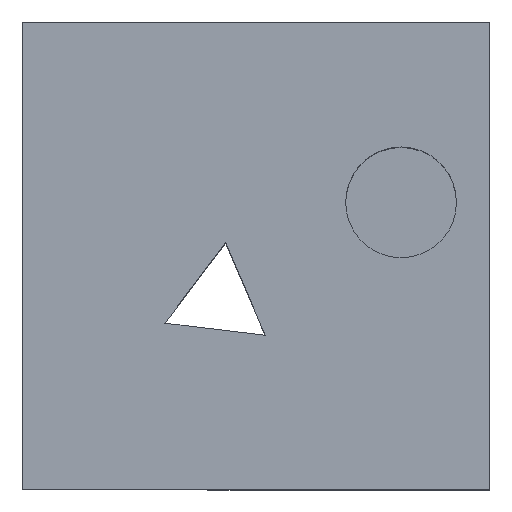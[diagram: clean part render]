
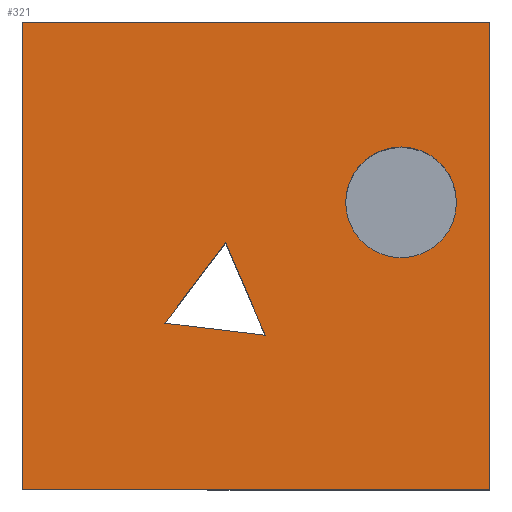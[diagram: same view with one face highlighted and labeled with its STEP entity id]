
A CAD part, top view. The second image highlights one B-rep face of the part: STEP entity #321.
In plain terms, the highlighted planar face has unit normal (0, 0, 1).
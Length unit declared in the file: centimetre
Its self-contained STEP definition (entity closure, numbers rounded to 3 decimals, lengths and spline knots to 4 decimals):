
#2 = EDGE_CURVE ( 'NONE', #534, #135, #410, .T. ) ;
#12 = LINE ( 'NONE', #310, #387 ) ;
#13 = DIRECTION ( 'NONE',  ( 1., 0., 0. ) ) ;
#20 = ORIENTED_EDGE ( 'NONE', *, *, #216, .F. ) ;
#31 = FACE_BOUND ( 'NONE', #379, .T. ) ;
#33 = DIRECTION ( 'NONE',  ( 0., -1., 0. ) ) ;
#34 = EDGE_CURVE ( 'NONE', #193, #433, #138, .T. ) ;
#44 = EDGE_CURVE ( 'NONE', #340, #193, #46, .T. ) ;
#46 = LINE ( 'NONE', #81, #420 ) ;
#53 = ORIENTED_EDGE ( 'NONE', *, *, #2, .F. ) ;
#65 = VERTEX_POINT ( 'NONE', #94 ) ;
#68 = CARTESIAN_POINT ( 'NONE',  ( 810.532, 613.9499, 1000. ) ) ;
#73 = LINE ( 'NONE', #253, #101 ) ;
#80 = EDGE_LOOP ( 'NONE', ( #439, #202, #440, #552 ) ) ;
#81 = CARTESIAN_POINT ( 'NONE',  ( 0., 0., 1000. ) ) ;
#94 = CARTESIAN_POINT ( 'NONE',  ( 691.9903, 613.9499, 1000. ) ) ;
#101 = VECTOR ( 'NONE', #33, 100. ) ;
#104 = CARTESIAN_POINT ( 'NONE',  ( 810.532, 613.9499, 1000. ) ) ;
#121 = DIRECTION ( 'NONE',  ( 1., 0., 0. ) ) ;
#126 = DIRECTION ( 'NONE',  ( 1., 0., 0. ) ) ;
#129 = AXIS2_PLACEMENT_3D ( 'NONE', #104, #288, #13 ) ;
#135 = VERTEX_POINT ( 'NONE', #137 ) ;
#137 = CARTESIAN_POINT ( 'NONE',  ( 434.9745, 528.4443, 1000. ) ) ;
#138 = LINE ( 'NONE', #308, #249 ) ;
#142 = VERTEX_POINT ( 'NONE', #427 ) ;
#157 = VECTOR ( 'NONE', #217, 100. ) ;
#175 = CARTESIAN_POINT ( 'NONE',  ( 1000., 1000., 1000. ) ) ;
#179 = DIRECTION ( 'NONE',  ( -0.6, -0.8, 0. ) ) ;
#193 = VERTEX_POINT ( 'NONE', #365 ) ;
#202 = ORIENTED_EDGE ( 'NONE', *, *, #44, .T. ) ;
#204 = CARTESIAN_POINT ( 'NONE',  ( 0., 0., 1000. ) ) ;
#213 = AXIS2_PLACEMENT_3D ( 'NONE', #68, #519, #121 ) ;
#216 = EDGE_CURVE ( 'NONE', #65, #580, #256, .T. ) ;
#217 = DIRECTION ( 'NONE',  ( -1., 0., 0. ) ) ;
#248 = CARTESIAN_POINT ( 'NONE',  ( 0., 1000., 1000. ) ) ;
#249 = VECTOR ( 'NONE', #376, 100. ) ;
#253 = CARTESIAN_POINT ( 'NONE',  ( 0., 1000., 1000. ) ) ;
#256 = CIRCLE ( 'NONE', #129, 118.5417 ) ;
#261 = VERTEX_POINT ( 'NONE', #248 ) ;
#288 = DIRECTION ( 'NONE',  ( 0., 0., 1. ) ) ;
#292 = DIRECTION ( 'NONE',  ( 0., 0., 1. ) ) ;
#295 = EDGE_CURVE ( 'NONE', #142, #534, #438, .T. ) ;
#296 = VECTOR ( 'NONE', #349, 100. ) ;
#299 = CARTESIAN_POINT ( 'NONE',  ( 305.0941, 355.3708, 1000. ) ) ;
#308 = CARTESIAN_POINT ( 'NONE',  ( 1000., 1000., 1000. ) ) ;
#309 = CIRCLE ( 'NONE', #213, 118.5417 ) ;
#310 = CARTESIAN_POINT ( 'NONE',  ( 434.9745, 528.4443, 1000. ) ) ;
#313 = EDGE_CURVE ( 'NONE', #580, #65, #309, .T. ) ;
#316 = CARTESIAN_POINT ( 'NONE',  ( 519.9204, 329.4278, 1000. ) ) ;
#321 = ADVANCED_FACE ( 'NONE', ( #442, #31, #531 ), #396, .T. ) ;
#334 = ORIENTED_EDGE ( 'NONE', *, *, #295, .F. ) ;
#339 = EDGE_CURVE ( 'NONE', #261, #340, #73, .T. ) ;
#340 = VERTEX_POINT ( 'NONE', #541 ) ;
#349 = DIRECTION ( 'NONE',  ( 0.993, -0.12, 0. ) ) ;
#365 = CARTESIAN_POINT ( 'NONE',  ( 1000., 0., 1000. ) ) ;
#376 = DIRECTION ( 'NONE',  ( 0., 1., 0. ) ) ;
#379 = EDGE_LOOP ( 'NONE', ( #400, #53, #334 ) ) ;
#387 = VECTOR ( 'NONE', #179, 100. ) ;
#393 = EDGE_CURVE ( 'NONE', #433, #261, #408, .T. ) ;
#394 = AXIS2_PLACEMENT_3D ( 'NONE', #204, #292, #528 ) ;
#396 = PLANE ( 'NONE',  #394 ) ;
#400 = ORIENTED_EDGE ( 'NONE', *, *, #461, .F. ) ;
#408 = LINE ( 'NONE', #453, #157 ) ;
#410 = LINE ( 'NONE', #316, #536 ) ;
#418 = CARTESIAN_POINT ( 'NONE',  ( 929.0737, 613.9499, 1000. ) ) ;
#420 = VECTOR ( 'NONE', #126, 100. ) ;
#427 = CARTESIAN_POINT ( 'NONE',  ( 305.0941, 355.3708, 1000. ) ) ;
#433 = VERTEX_POINT ( 'NONE', #175 ) ;
#438 = LINE ( 'NONE', #299, #296 ) ;
#439 = ORIENTED_EDGE ( 'NONE', *, *, #339, .T. ) ;
#440 = ORIENTED_EDGE ( 'NONE', *, *, #34, .T. ) ;
#442 = FACE_BOUND ( 'NONE', #556, .T. ) ;
#453 = CARTESIAN_POINT ( 'NONE',  ( 0., 1000., 1000. ) ) ;
#461 = EDGE_CURVE ( 'NONE', #135, #142, #12, .T. ) ;
#463 = DIRECTION ( 'NONE',  ( -0.393, 0.92, 0. ) ) ;
#507 = CARTESIAN_POINT ( 'NONE',  ( 519.9204, 329.4278, 1000. ) ) ;
#519 = DIRECTION ( 'NONE',  ( 0., 0., 1. ) ) ;
#522 = ORIENTED_EDGE ( 'NONE', *, *, #313, .F. ) ;
#528 = DIRECTION ( 'NONE',  ( 1., 0., 0. ) ) ;
#531 = FACE_OUTER_BOUND ( 'NONE', #80, .T. ) ;
#534 = VERTEX_POINT ( 'NONE', #507 ) ;
#536 = VECTOR ( 'NONE', #463, 100. ) ;
#541 = CARTESIAN_POINT ( 'NONE',  ( 0., 0., 1000. ) ) ;
#552 = ORIENTED_EDGE ( 'NONE', *, *, #393, .T. ) ;
#556 = EDGE_LOOP ( 'NONE', ( #522, #20 ) ) ;
#580 = VERTEX_POINT ( 'NONE', #418 ) ;
